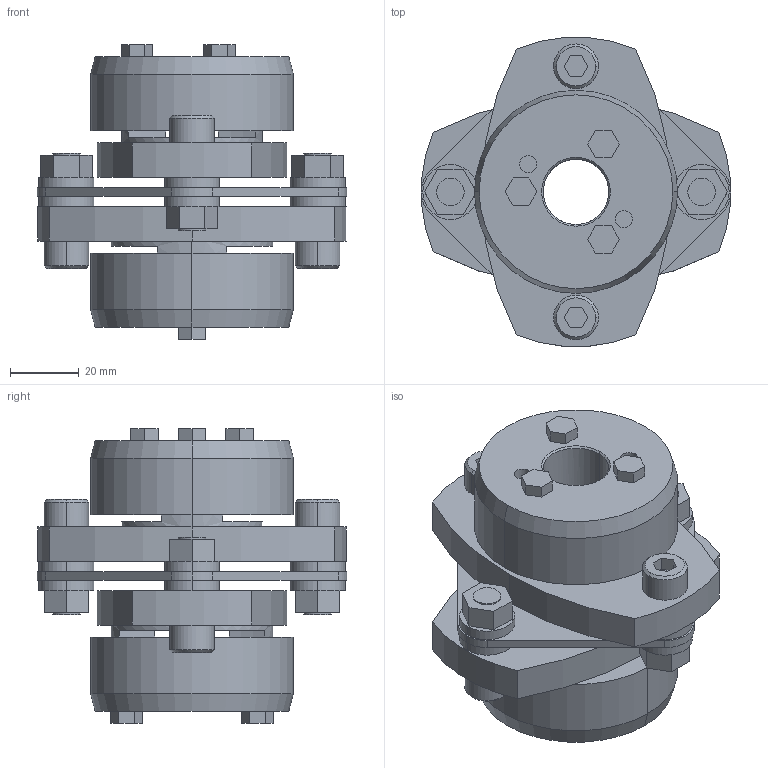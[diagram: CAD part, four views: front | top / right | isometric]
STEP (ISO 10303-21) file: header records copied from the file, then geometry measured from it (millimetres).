
FILE_DESCRIPTION((''),'2;1');
FILE_NAME('LCS-90T7-19×25.stp','2011-09-09T09:56:24',(''),(''),'AutoCAD STEP 2000i','AutoCAD 2000i',', , ');
FILE_SCHEMA(('CONFIG_CONTROL_DESIGN'));
Length unit declared in the file: millimetre
Products named in the file (8): LCS-90T7-19×25; 忣兜1; LC90T7-T025; LC90T7-T019-1; LC90T7-T019; LC90-B019-1; LC90-B019; LCS90-ITA
Assembly tree (7 placements, depth 2):
  LCS-90T7-19×25
    忣兜1
    LC90T7-T025
    LC90T7-T019-1
    LC90T7-T019
    LC90-B019-1
    LC90-B019
    LCS90-ITA
Bounding box: 90 x 89.94 x 85.5 mm (x, y, z)
Volume: 202265 mm3; surface area: 52161.2 mm2
Topology: 1 solids, 1 shells, 225 faces, 550 edges, 360 vertices
Faces by surface type: plane 125, cylinder 80, cone 20
Entity records: 6869 total; most frequent: DIRECTION 1212, CARTESIAN_POINT 1143, ORIENTED_EDGE 1100, EDGE_CURVE 550, AXIS2_PLACEMENT_3D 429, VERTEX_POINT 360, VECTOR 354, LINE 354
